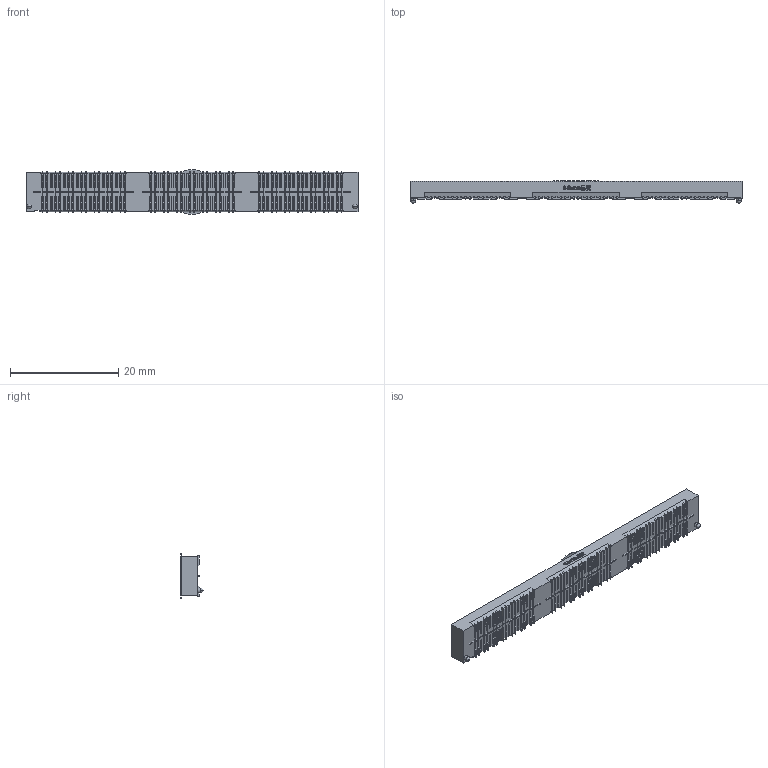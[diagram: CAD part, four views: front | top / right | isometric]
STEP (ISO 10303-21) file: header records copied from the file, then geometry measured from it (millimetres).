
FILE_DESCRIPTION (( 'STEP AP203' ), '1' );
FILE_NAME ('GT-B0806FSV32-84B0402.STEP', '2026-05-07T02:16:50', ( '' ), ( '' ), 'SwSTEP 2.0', 'SolidWorks 2020', '' );
FILE_SCHEMA (( 'CONFIG_CONTROL_DESIGN' ));
Length unit declared in the file: millimetre
Products named in the file (8): 02.stp; 03.stp; 01.stp; 04.stp; 05.stp; GT-B0806FSV32-84B0402; GT-B0806FSV32-84B0402.stp; 06.stp
Assembly tree (15 placements, depth 3):
  GT-B0806FSV32-84B0402
    GT-B0806FSV32-84B0402.stp
      01.stp
      02.stp  x3
      03.stp  x3
      04.stp  x3
      05.stp  x3
      06.stp
Bounding box: 61.29 x 4.14 x 8.26 mm (x, y, z)
Volume: 758.3 mm3; surface area: 3975.6 mm2
Topology: 14 solids, 14 shells, 4035 faces, 12178 edges, 8118 vertices
Faces by surface type: plane 3234, cylinder 726, bspline 71, sphere 4
Entity records: 85330 total; most frequent: CARTESIAN_POINT 18611, ORIENTED_EDGE 14524, DIRECTION 12474, EDGE_CURVE 7262, LINE 6516, VECTOR 6516, VERTEX_POINT 4842, AXIS2_PLACEMENT_3D 2979
